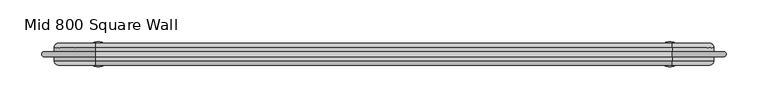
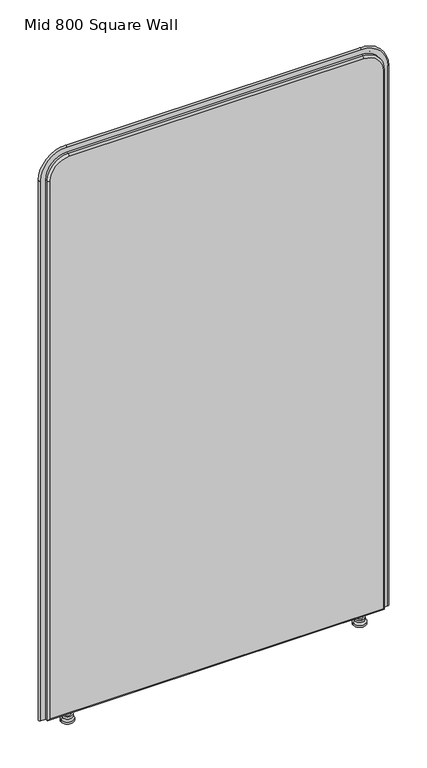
"""IFC4 building model written with IfcOpenShell, lengths in millimetres: furniture geometry, DBLTD_Sixteen3_PrivacyScreens_Artus_Square : Mid 800 Square Wall."""

from ifc_helpers import new_model, si_unit, point, frame, origin, place, context, project, spatial, polyline, circle_curve, ellipse_curve, trimmed, source, transform, mapped, element, save
from ifc_brep_helpers import plane_surface, cylinder_surface, revolved_surface, advanced_brep


def mid_800_square_wall_5ebc1928(model_context):
    return source(origin(), model_context, "Body", "AdvancedBrep", [
        advanced_brep(
        [(342.2938623, -820.0, 22.0), (335.2938623, -820.0, 22.0), (349.2938623, -820.0, 22.0), (335.2938623, -820.0, 15.0), (349.2938623, -820.0, 15.0), (330.8431626, -820.0, 15.0), (353.744562, -820.0, 15.0), (330.8431626, -820.0, 10.0), (353.744562, -820.0, 10.0), (327.2938623, -820.0, 5.0), (357.2938623, -820.0, 5.0), (327.2938623, -820.0, 0.0), (357.2938623, -820.0, 0.0), (342.2938623, -820.0, 0.0)],
        [
            (0, 1),
            (1, 2, circle_curve(frame((342.2938623, -820.0, 22.0), z_axis=(0.0, 0.0, 1.0), x_axis=(1.0, 0.0, 0.0)), 7.0)),
            (2, 0),
            (2, 1, circle_curve(frame((342.2938623, -820.0, 22.0), z_axis=(0.0, 0.0, 1.0), x_axis=(1.0, 0.0, 0.0)), 7.0)),
            (1, 3),
            (3, 4, circle_curve(frame((342.2938623, -820.0, 15.0), z_axis=(0.0, 0.0, 1.0), x_axis=(1.0, 0.0, 0.0)), 7.0)),
            (4, 2),
            (4, 3, circle_curve(frame((342.2938623, -820.0, 15.0), z_axis=(0.0, 0.0, 1.0), x_axis=(1.0, 0.0, 0.0)), 7.0)),
            (3, 5),
            (5, 6, circle_curve(frame((342.2938623, -820.0, 15.0), z_axis=(0.0, 0.0, 1.0), x_axis=(1.0, 0.0, 0.0)), 11.4506997)),
            (6, 4),
            (6, 5, circle_curve(frame((342.2938623, -820.0, 15.0), z_axis=(0.0, 0.0, 1.0), x_axis=(1.0, 0.0, 0.0)), 11.4506997)),
            (5, 7),
            (7, 8, circle_curve(frame((342.2938623, -820.0, 10.0), z_axis=(0.0, 0.0, 1.0), x_axis=(1.0, 0.0, 0.0)), 11.4506997)),
            (8, 6),
            (8, 7, circle_curve(frame((342.2938623, -820.0, 10.0), z_axis=(0.0, 0.0, 1.0), x_axis=(1.0, 0.0, 0.0)), 11.4506997)),
            (7, 9),
            (9, 10, circle_curve(frame((342.2938623, -820.0, 5.0), z_axis=(0.0, 0.0, 1.0), x_axis=(1.0, 0.0, 0.0)), 15.0)),
            (10, 8),
            (10, 9, circle_curve(frame((342.2938623, -820.0, 5.0), z_axis=(0.0, 0.0, 1.0), x_axis=(1.0, 0.0, 0.0)), 15.0)),
            (9, 11),
            (11, 12, circle_curve(frame((342.2938623, -820.0, 0.0), z_axis=(0.0, 0.0, 1.0), x_axis=(1.0, 0.0, 0.0)), 15.0)),
            (12, 10),
            (12, 11, circle_curve(frame((342.2938623, -820.0, 0.0), z_axis=(0.0, 0.0, 1.0), x_axis=(1.0, 0.0, 0.0)), 15.0)),
            (11, 13),
            (13, 12),
        ],
        [
            plane_surface(frame((342.2938623, -820.0, 22.0), z_axis=(0.0, 0.0, 1.0), x_axis=(1.0, 0.0, 0.0))),
            cylinder_surface(frame((342.2938623, -820.0, 5.0), z_axis=(0.0, 0.0, 1.0), x_axis=(1.0, 0.0, 0.0)), 7.0),
            plane_surface(frame((342.2938623, -820.0, 15.0), z_axis=(0.0, 0.0, 1.0), x_axis=(1.0, 0.0, 0.0))),
            cylinder_surface(frame((342.2938623, -820.0, 5.0), z_axis=(0.0, 0.0, 1.0), x_axis=(1.0, 0.0, 0.0)), 11.4506997),
            revolved_surface(polyline([(357.2938623, -820.0, 5.0), (353.744562, -820.0, 10.0)]), (342.2938623, -820.0, 5.0), (0.0, 0.0, 1.0)),
            cylinder_surface(frame((342.2938623, -820.0, 5.0), z_axis=(0.0, 0.0, 1.0), x_axis=(1.0, 0.0, 0.0)), 15.0),
            plane_surface(frame((342.2938623, -820.0, 0.0), z_axis=(0.0, 0.0, -1.0), x_axis=(1.0, 0.0, 0.0))),
        ],
        [
            (0, [[1, 2, 3]]),
            (0, [[-3, 4, -1]]),
            (1, [[5, 6, 7, -2]]),
            (1, [[-7, 8, -5, -4]]),
            (2, [[9, 10, 11, -6]]),
            (2, [[-11, 12, -9, -8]]),
            (3, [[13, 14, 15, -10]]),
            (3, [[-15, 16, -13, -12]]),
            (4, [[17, 18, 19, -14]]),
            (4, [[-19, 20, -17, -16]]),
            (5, [[21, 22, 23, -18]]),
            (5, [[-23, 24, -21, -20]]),
            (6, [[25, 26, -22]]),
            (6, [[-26, -25, -24]]),
        ],
    ),
        advanced_brep(
        [(-335.2938623, -820.0, 22.0), (-342.2938623, -820.0, 22.0), (-349.2938623, -820.0, 22.0), (-335.2938623, -820.0, 15.0), (-349.2938623, -820.0, 15.0), (-330.8431626, -820.0, 15.0), (-353.744562, -820.0, 15.0), (-330.8431626, -820.0, 10.0), (-353.744562, -820.0, 10.0), (-327.2938623, -820.0, 5.0), (-357.2938623, -820.0, 5.0), (-327.2938623, -820.0, 0.0), (-357.2938623, -820.0, 0.0), (-342.2938623, -820.0, 0.0)],
        [
            (0, 1),
            (1, 2),
            (2, 0, circle_curve(frame((-342.2938623, -820.0, 22.0), z_axis=(0.0, 0.0, 1.0), x_axis=(-1.0, 0.0, 0.0)), 7.0)),
            (0, 2, circle_curve(frame((-342.2938623, -820.0, 22.0), z_axis=(0.0, 0.0, 1.0), x_axis=(-1.0, 0.0, 0.0)), 7.0)),
            (3, 0),
            (2, 4),
            (4, 3, circle_curve(frame((-342.2938623, -820.0, 15.0), z_axis=(0.0, 0.0, 1.0), x_axis=(-1.0, 0.0, 0.0)), 7.0)),
            (3, 4, circle_curve(frame((-342.2938623, -820.0, 15.0), z_axis=(0.0, 0.0, 1.0), x_axis=(-1.0, 0.0, 0.0)), 7.0)),
            (5, 3),
            (4, 6),
            (6, 5, circle_curve(frame((-342.2938623, -820.0, 15.0), z_axis=(0.0, 0.0, 1.0), x_axis=(-1.0, 0.0, 0.0)), 11.4506997)),
            (5, 6, circle_curve(frame((-342.2938623, -820.0, 15.0), z_axis=(0.0, 0.0, 1.0), x_axis=(-1.0, 0.0, 0.0)), 11.4506997)),
            (7, 5),
            (6, 8),
            (8, 7, circle_curve(frame((-342.2938623, -820.0, 10.0), z_axis=(0.0, 0.0, 1.0), x_axis=(-1.0, 0.0, 0.0)), 11.4506997)),
            (7, 8, circle_curve(frame((-342.2938623, -820.0, 10.0), z_axis=(0.0, 0.0, 1.0), x_axis=(-1.0, 0.0, 0.0)), 11.4506997)),
            (9, 7),
            (8, 10),
            (10, 9, circle_curve(frame((-342.2938623, -820.0, 5.0), z_axis=(0.0, 0.0, 1.0), x_axis=(-1.0, 0.0, 0.0)), 15.0)),
            (9, 10, circle_curve(frame((-342.2938623, -820.0, 5.0), z_axis=(0.0, 0.0, 1.0), x_axis=(-1.0, 0.0, 0.0)), 15.0)),
            (11, 9),
            (10, 12),
            (12, 11, circle_curve(frame((-342.2938623, -820.0, 0.0), z_axis=(0.0, 0.0, 1.0), x_axis=(-1.0, 0.0, 0.0)), 15.0)),
            (11, 12, circle_curve(frame((-342.2938623, -820.0, 0.0), z_axis=(0.0, 0.0, 1.0), x_axis=(-1.0, 0.0, 0.0)), 15.0)),
            (13, 11),
            (12, 13),
        ],
        [
            plane_surface(frame((-342.2938623, -820.0, 22.0), z_axis=(0.0, 0.0, 1.0), x_axis=(-1.0, 0.0, 0.0))),
            cylinder_surface(frame((-342.2938623, -820.0, 5.0), z_axis=(0.0, 0.0, -1.0), x_axis=(-1.0, 0.0, 0.0)), 7.0),
            plane_surface(frame((-342.2938623, -820.0, 15.0), z_axis=(0.0, 0.0, 1.0), x_axis=(-1.0, 0.0, 0.0))),
            cylinder_surface(frame((-342.2938623, -820.0, 5.0), z_axis=(0.0, 0.0, -1.0), x_axis=(-1.0, 0.0, 0.0)), 11.4506997),
            revolved_surface(polyline([(-353.744562, -820.0, 10.0), (-357.2938623, -820.0, 5.0)]), (-342.2938623, -820.0, 5.0), (0.0, 0.0, -1.0)),
            cylinder_surface(frame((-342.2938623, -820.0, 5.0), z_axis=(0.0, 0.0, -1.0), x_axis=(-1.0, 0.0, 0.0)), 15.0),
            plane_surface(frame((-342.2938623, -820.0, 0.0), z_axis=(0.0, 0.0, -1.0), x_axis=(-1.0, 0.0, 0.0))),
        ],
        [
            (0, [[1, 2, 3]]),
            (0, [[-2, -1, 4]]),
            (1, [[5, -3, 6, 7]]),
            (1, [[-6, -4, -5, 8]]),
            (2, [[9, -7, 10, 11]]),
            (2, [[-10, -8, -9, 12]]),
            (3, [[13, -11, 14, 15]]),
            (3, [[-14, -12, -13, 16]]),
            (4, [[17, -15, 18, 19]]),
            (4, [[-18, -16, -17, 20]]),
            (5, [[21, -19, 22, 23]]),
            (5, [[-22, -20, -21, 24]]),
            (6, [[25, -23, 26]]),
            (6, [[-26, -24, -25]]),
        ],
    ),
        advanced_brep(
        [(-390.0, -807.0, 27.0), (-390.0, -807.0, 1360.0), (-345.0, -807.0, 1405.0), (345.0, -807.0, 1405.0), (390.0, -807.0, 1360.0), (390.0, -807.0, 27.0), (390.0, -833.0, 27.0), (390.0, -833.0, 1360.0), (345.0, -833.0, 1405.0), (-345.0, -833.0, 1405.0), (-390.0, -833.0, 1360.0), (-390.0, -833.0, 27.0), (345.0, -812.0, 1410.0), (-345.0, -812.0, 1410.0), (-345.0, -828.0, 1410.0), (345.0, -828.0, 1410.0), (-395.0, -812.0, 1360.0), (-395.0, -828.0, 1360.0), (-395.0, -812.0, 22.0), (-395.0, -828.0, 22.0), (395.0, -812.0, 22.0), (395.0, -828.0, 22.0), (395.0, -812.0, 1360.0), (395.0, -828.0, 1360.0)],
        [
            (0, 1),
            (1, 2, circle_curve(frame((-345.0, -807.0, 1360.0), z_axis=(0.0, 1.0, 0.0), x_axis=(0.0, 0.0, 1.0)), 45.0)),
            (2, 3),
            (3, 4, circle_curve(frame((345.0, -807.0, 1360.0), z_axis=(0.0, 1.0, 0.0), x_axis=(1.0, 0.0, 0.0)), 45.0)),
            (4, 5),
            (5, 0),
            (6, 7),
            (7, 8, circle_curve(frame((345.0, -833.0, 1360.0), z_axis=(0.0, -1.0, 0.0), x_axis=(1.0, 0.0, 0.0)), 45.0)),
            (8, 9),
            (9, 10, circle_curve(frame((-345.0, -833.0, 1360.0), z_axis=(0.0, -1.0, 0.0), x_axis=(0.0, 0.0, 1.0)), 45.0)),
            (10, 11),
            (11, 6),
            (12, 13),
            (13, 14),
            (14, 15),
            (15, 12),
            (13, 16, circle_curve(frame((-345.0, -812.0, 1360.0), z_axis=(0.0, -1.0, 0.0), x_axis=(1.0, 0.0, 0.0)), 50.0)),
            (16, 17),
            (17, 14, circle_curve(frame((-345.0, -828.0, 1360.0), z_axis=(0.0, 1.0, 0.0), x_axis=(1.0, 0.0, 0.0)), 50.0)),
            (16, 18),
            (18, 19),
            (19, 17),
            (18, 20),
            (20, 21),
            (21, 19),
            (20, 22),
            (22, 23),
            (23, 21),
            (15, 23, circle_curve(frame((345.0, -828.0, 1360.0), z_axis=(0.0, 1.0, 0.0), x_axis=(1.0, 0.0, 0.0)), 50.0)),
            (22, 12, circle_curve(frame((345.0, -812.0, 1360.0), z_axis=(0.0, -1.0, 0.0), x_axis=(1.0, 0.0, 0.0)), 50.0)),
            (18, 0, ellipse_curve(frame((-390.0, -812.0, 27.0), z_axis=(0.7071067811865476, 0.0, -0.7071067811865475), x_axis=(0.7071067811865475, 0.0, 0.7071067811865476)), 7.0710678, 5.0)),
            (5, 20, ellipse_curve(frame((390.0, -812.0, 27.0), z_axis=(-0.7071067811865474, 0.0, -0.7071067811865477), x_axis=(0.7071067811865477, 0.0, -0.7071067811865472)), 7.0710678, 5.0)),
            (11, 19, ellipse_curve(frame((-390.0, -828.0, 27.0), z_axis=(0.7071067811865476, 0.0, -0.7071067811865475), x_axis=(0.7071067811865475, 0.0, 0.7071067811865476)), 7.0710678, 5.0)),
            (21, 6, ellipse_curve(frame((390.0, -828.0, 27.0), z_axis=(-0.7071067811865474, 0.0, -0.7071067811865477), x_axis=(0.7071067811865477, 0.0, -0.7071067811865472)), 7.0710678, 5.0)),
            (4, 22, circle_curve(frame((390.0, -812.0, 1360.0), z_axis=(0.0, 0.0, -1.0), x_axis=(1.0, 0.0, 0.0)), 5.0)),
            (23, 7, circle_curve(frame((390.0, -828.0, 1360.0), z_axis=(0.0, 0.0, -1.0), x_axis=(1.0, 0.0, 0.0)), 5.0)),
            (3, 12, circle_curve(frame((345.0, -812.0, 1405.0), z_axis=(1.0, 0.0, 0.0), x_axis=(0.0, 0.0, 1.0)), 5.0)),
            (15, 8, circle_curve(frame((345.0, -828.0, 1405.0), z_axis=(1.0, 0.0, 0.0), x_axis=(0.0, 0.0, 1.0)), 5.0)),
            (2, 13, circle_curve(frame((-345.0, -812.0, 1405.0), z_axis=(1.0, 0.0, 0.0), x_axis=(0.0, 0.0, 1.0)), 5.0)),
            (14, 9, circle_curve(frame((-345.0, -828.0, 1405.0), z_axis=(1.0, 0.0, 0.0), x_axis=(0.0, 0.0, 1.0)), 5.0)),
            (1, 16, circle_curve(frame((-390.0, -812.0, 1360.0), z_axis=(0.0, 0.0, 1.0), x_axis=(-1.0, 0.0, 0.0)), 5.0)),
            (17, 10, circle_curve(frame((-390.0, -828.0, 1360.0), z_axis=(0.0, 0.0, 1.0), x_axis=(-1.0, 0.0, 0.0)), 5.0)),
        ],
        [
            plane_surface(frame((-345.0, -807.0, 1410.0), z_axis=(0.0, 1.0, 0.0), x_axis=(-1.0, 0.0, 0.0))),
            plane_surface(frame((-345.0, -833.0, 1410.0), z_axis=(0.0, -1.0, 0.0), x_axis=(1.0, 0.0, 0.0))),
            plane_surface(frame((345.0, -807.0, 1410.0), z_axis=(0.0, 0.0, 1.0), x_axis=(0.0, -1.0, 0.0))),
            cylinder_surface(frame((-345.0, -833.0, 1360.0), z_axis=(0.0, 1.0, 0.0), x_axis=(1.0, 0.0, 0.0)), 50.0),
            plane_surface(frame((-395.0, -807.0, 1360.0), z_axis=(-1.0, 0.0, 0.0), x_axis=(0.0, -1.0, 0.0))),
            plane_surface(frame((-395.0, -807.0, 22.0), z_axis=(0.0, 0.0, -1.0), x_axis=(0.0, -1.0, 0.0))),
            plane_surface(frame((395.0, -807.0, 22.0), z_axis=(1.0, 0.0, 0.0), x_axis=(0.0, -1.0, 0.0))),
            cylinder_surface(frame((345.0, -833.0, 1360.0), z_axis=(0.0, 1.0, 0.0), x_axis=(1.0, 0.0, 0.0)), 50.0),
            cylinder_surface(frame((-395.0, -812.0, 27.0), z_axis=(1.0, 0.0, 0.0), x_axis=(0.0, 0.0, -1.0)), 5.0),
            cylinder_surface(frame((-395.0, -828.0, 27.0), z_axis=(1.0, 0.0, 0.0), x_axis=(0.0, 0.0, -1.0)), 5.0),
            cylinder_surface(frame((390.0, -812.0, 22.0), z_axis=(0.0, 0.0, 1.0), x_axis=(1.0, 0.0, 0.0)), 5.0),
            cylinder_surface(frame((390.0, -828.0, 22.0), z_axis=(0.0, 0.0, 1.0), x_axis=(1.0, 0.0, 0.0)), 5.0),
            revolved_surface(trimmed(ellipse_curve(frame((390.0, -812.0, 1360.0), z_axis=(0.0, 0.0, 1.0), x_axis=(1.0, 0.0, 0.0)), 5.0, 5.0), [point((395.0, -812.0, 1360.0))], [point((390.0, -807.0, 1360.0))], True, "CARTESIAN"), (345.0, -807.0, 1360.0), (0.0, 1.0, 0.0)),
            revolved_surface(trimmed(ellipse_curve(frame((390.0, -828.0, 1360.0), z_axis=(0.0, 0.0, 1.0), x_axis=(1.0, 0.0, 0.0)), 5.0, 5.0), [point((390.0, -833.0, 1360.0))], [point((395.0, -828.0, 1360.0))], True, "CARTESIAN"), (345.0, -807.0, 1360.0), (0.0, 1.0, 0.0)),
            cylinder_surface(frame((345.0, -812.0, 1405.0), z_axis=(-1.0, 0.0, 0.0), x_axis=(0.0, 0.0, 1.0)), 5.0),
            cylinder_surface(frame((345.0, -828.0, 1405.0), z_axis=(-1.0, 0.0, 0.0), x_axis=(0.0, 0.0, 1.0)), 5.0),
            revolved_surface(trimmed(ellipse_curve(frame((-345.0, -812.0, 1405.0), z_axis=(-1.0, 0.0, 0.0), x_axis=(0.0, 0.0, 1.0)), 5.0, 5.0), [point((-345.0, -812.0, 1410.0))], [point((-345.0, -807.0, 1405.0))], True, "CARTESIAN"), (-345.0, -807.0, 1360.0), (0.0, 1.0, 0.0)),
            revolved_surface(trimmed(ellipse_curve(frame((-345.0, -828.0, 1405.0), z_axis=(-1.0, 0.0, 0.0), x_axis=(0.0, 0.0, 1.0)), 5.0, 5.0), [point((-345.0, -833.0, 1405.0))], [point((-345.0, -828.0, 1410.0))], True, "CARTESIAN"), (-345.0, -807.0, 1360.0), (0.0, 1.0, 0.0)),
            cylinder_surface(frame((-390.0, -812.0, 1360.0), z_axis=(0.0, 0.0, -1.0), x_axis=(-1.0, 0.0, 0.0)), 5.0),
            cylinder_surface(frame((-390.0, -828.0, 1360.0), z_axis=(0.0, 0.0, -1.0), x_axis=(-1.0, 0.0, 0.0)), 5.0),
        ],
        [
            (0, [[1, 2, 3, 4, 5, 6]]),
            (1, [[7, 8, 9, 10, 11, 12]]),
            (2, [[13, 14, 15, 16]]),
            (3, [[17, 18, 19, -14]]),
            (4, [[20, 21, 22, -18]]),
            (5, [[23, 24, 25, -21]]),
            (6, [[26, 27, 28, -24]]),
            (7, [[29, -27, 30, -16]]),
            (8, [[-23, 31, -6, 32]]),
            (9, [[-12, 33, -25, 34]]),
            (10, [[-5, 35, -26, -32]]),
            (11, [[-28, 36, -7, -34]]),
            (12, [[-4, 37, -30, -35]]),
            (13, [[-29, 38, -8, -36]]),
            (14, [[-3, 39, -13, -37]]),
            (15, [[-15, 40, -9, -38]]),
            (16, [[-2, 41, -17, -39]]),
            (17, [[-19, 42, -10, -40]]),
            (18, [[-20, -41, -1, -31]]),
            (19, [[-11, -42, -22, -33]]),
        ],
    ),
        advanced_brep(
        [(406.9577057, -823.0, 22.0), (395.0, -823.0, 22.0), (395.0, -817.0, 22.0), (406.9577057, -817.0, 22.0), (406.9577057, -817.0, 1360.0), (406.9577057, -823.0, 1360.0), (395.0, -817.0, 1360.0), (345.0, -817.0, 1410.0), (-345.0, -817.0, 1410.0), (-395.0, -817.0, 1360.0), (-395.0, -817.0, 22.0), (-406.9577057, -817.0, 22.0), (-406.9577057, -817.0, 1360.0), (-345.0, -817.0, 1421.9577057), (345.0, -817.0, 1421.9577057), (395.0, -823.0, 1360.0), (345.0, -823.0, 1421.9577057), (-345.0, -823.0, 1421.9577057), (-406.9577057, -823.0, 1360.0), (-406.9577057, -823.0, 22.0), (-395.0, -823.0, 22.0), (-395.0, -823.0, 1360.0), (-345.0, -823.0, 1410.0), (345.0, -823.0, 1410.0)],
        [
            (0, 1),
            (1, 2),
            (2, 3),
            (3, 0, circle_curve(frame((406.9577057, -820.0, 22.0), z_axis=(0.0, 0.0, -1.0), x_axis=(1.0, 0.0, 0.0)), 3.0)),
            (3, 4),
            (4, 5, circle_curve(frame((406.9577057, -820.0, 1360.0), z_axis=(0.0, 0.0, -1.0), x_axis=(1.0, 0.0, 0.0)), 3.0)),
            (5, 0),
            (2, 6),
            (6, 7, circle_curve(frame((345.0, -817.0, 1360.0), z_axis=(0.0, -1.0, 0.0), x_axis=(1.0, 0.0, 0.0)), 50.0)),
            (7, 8),
            (8, 9, circle_curve(frame((-345.0, -817.0, 1360.0), z_axis=(0.0, -1.0, 0.0), x_axis=(0.0, 0.0, 1.0)), 50.0)),
            (9, 10),
            (10, 11),
            (11, 12),
            (12, 13, circle_curve(frame((-345.0, -817.0, 1360.0), z_axis=(0.0, 1.0, 0.0), x_axis=(0.0, 0.0, 1.0)), 61.9577057)),
            (13, 14),
            (14, 4, circle_curve(frame((345.0, -817.0, 1360.0), z_axis=(0.0, 1.0, 0.0), x_axis=(1.0, 0.0, 0.0)), 61.9577057)),
            (1, 15),
            (15, 6),
            (5, 16, circle_curve(frame((345.0, -823.0, 1360.0), z_axis=(0.0, -1.0, 0.0), x_axis=(1.0, 0.0, 0.0)), 61.9577057)),
            (16, 17),
            (17, 18, circle_curve(frame((-345.0, -823.0, 1360.0), z_axis=(0.0, -1.0, 0.0), x_axis=(0.0, 0.0, 1.0)), 61.9577057)),
            (18, 19),
            (19, 20),
            (20, 21),
            (21, 22, circle_curve(frame((-345.0, -823.0, 1360.0), z_axis=(0.0, 1.0, 0.0), x_axis=(0.0, 0.0, 1.0)), 50.0)),
            (22, 23),
            (23, 15, circle_curve(frame((345.0, -823.0, 1360.0), z_axis=(0.0, 1.0, 0.0), x_axis=(1.0, 0.0, 0.0)), 50.0)),
            (14, 16, circle_curve(frame((345.0, -820.0, 1421.9577057), z_axis=(1.0, 0.0, 0.0), x_axis=(0.0, 0.0, 1.0)), 3.0)),
            (23, 7),
            (13, 17, circle_curve(frame((-345.0, -820.0, 1421.9577057), z_axis=(1.0, 0.0, 0.0), x_axis=(0.0, 0.0, 1.0)), 3.0)),
            (22, 8),
            (12, 18, circle_curve(frame((-406.9577057, -820.0, 1360.0), z_axis=(0.0, 0.0, 1.0), x_axis=(-1.0, 0.0, 0.0)), 3.0)),
            (21, 9),
            (19, 11, circle_curve(frame((-406.9577057, -820.0, 22.0), z_axis=(0.0, 0.0, -1.0), x_axis=(-1.0, 0.0, 0.0)), 3.0)),
            (10, 20),
        ],
        [
            plane_surface(frame((395.0, -807.0, 22.0), z_axis=(0.0, 0.0, -1.0), x_axis=(1.0, 0.0, 0.0))),
            cylinder_surface(frame((406.9577057, -820.0, 22.0), z_axis=(0.0, 0.0, -1.0), x_axis=(1.0, 0.0, 0.0)), 3.0),
            plane_surface(frame((406.9577057, -817.0, 22.0), z_axis=(0.0, 1.0, 0.0), x_axis=(0.0, 0.0, 1.0))),
            plane_surface(frame((395.0, -817.0, 22.0), z_axis=(-1.0, 0.0, 0.0), x_axis=(0.0, 0.0, 1.0))),
            plane_surface(frame((395.0, -823.0, 22.0), z_axis=(0.0, -1.0, 0.0), x_axis=(0.0, 0.0, 1.0))),
            revolved_surface(trimmed(ellipse_curve(frame((406.9577057, -820.0, 1360.0), z_axis=(0.0, 0.0, 1.0), x_axis=(1.0, 0.0, 0.0)), 3.0, 3.0), [point((406.9577057, -823.0, 1360.0))], [point((406.9577057, -817.0, 1360.0))], True, "CARTESIAN"), (345.0, -807.0, 1360.0), (0.0, 1.0, 0.0)),
            revolved_surface(polyline([(395.0, -817.0, 1360.0), (395.0, -823.0, 1360.0)]), (345.0, -807.0, 1360.0), (0.0, 1.0, 0.0)),
            cylinder_surface(frame((345.0, -820.0, 1421.9577057), z_axis=(1.0, 0.0, 0.0), x_axis=(0.0, 0.0, 1.0)), 3.0),
            plane_surface(frame((345.0, -817.0, 1410.0), z_axis=(0.0, 0.0, -1.0), x_axis=(-1.0, 0.0, 0.0))),
            revolved_surface(trimmed(ellipse_curve(frame((-345.0, -820.0, 1421.9577057), z_axis=(-1.0, 0.0, 0.0), x_axis=(0.0, 0.0, 1.0)), 3.0, 3.0), [point((-345.0, -823.0, 1421.9577057))], [point((-345.0, -817.0, 1421.9577057))], True, "CARTESIAN"), (-345.0, -807.0, 1360.0), (0.0, 1.0, 0.0)),
            revolved_surface(polyline([(-345.0, -817.0, 1410.0), (-345.0, -823.0, 1410.0)]), (-345.0, -807.0, 1360.0), (0.0, 1.0, 0.0)),
            plane_surface(frame((-395.0, -807.0, 22.0), z_axis=(0.0, 0.0, -1.0), x_axis=(-1.0, 0.0, 0.0))),
            cylinder_surface(frame((-406.9577057, -820.0, 1360.0), z_axis=(0.0, 0.0, 1.0), x_axis=(-1.0, 0.0, 0.0)), 3.0),
            plane_surface(frame((-395.0, -817.0, 1360.0), z_axis=(1.0, 0.0, 0.0), x_axis=(0.0, 0.0, -1.0))),
        ],
        [
            (0, [[1, 2, 3, 4]]),
            (1, [[5, 6, 7, -4]]),
            (2, [[8, 9, 10, 11, 12, 13, 14, 15, 16, 17, -5, -3]]),
            (3, [[18, 19, -8, -2]]),
            (4, [[-7, 20, 21, 22, 23, 24, 25, 26, 27, 28, -18, -1]]),
            (5, [[29, -20, -6, -17]]),
            (6, [[30, -9, -19, -28]]),
            (7, [[-16, 31, -21, -29]]),
            (8, [[-27, 32, -10, -30]]),
            (9, [[33, -22, -31, -15]]),
            (10, [[34, -11, -32, -26]]),
            (11, [[35, -13, 36, -24]]),
            (12, [[-14, -35, -23, -33]]),
            (13, [[-25, -36, -12, -34]]),
        ],
    ),
    ])


if __name__ == "__main__":
    model = new_model("IFC4")
    model_context = context("Model", 3, world=origin())
    ifc_project = project(units=[si_unit("LENGTHUNIT", "METRE", prefix="MILLI")], contexts=[model_context])
    site = spatial("IfcSite", under=ifc_project)
    building = spatial("IfcBuilding", under=site)
    placement = place(None, origin())
    mid_800_square_wall_shape = mid_800_square_wall_5ebc1928(model_context)
    element("IfcFurniture", 1, ObjectType="DBLTD_Sixteen3_PrivacyScreens_Artus_Square : Mid 800 Square Wall", at=placement, inside=building, context=model_context, shape_type="MappedRepresentation", body=[
        mapped(mid_800_square_wall_shape, transform((0.0, 0.0, 0.0), x_axis=(1.0, 0.0, 0.0), y_axis=(0.0, 1.0, 0.0), z_axis=(0.0, 0.0, 1.0))),
    ])
    save(model, "model.ifc")
